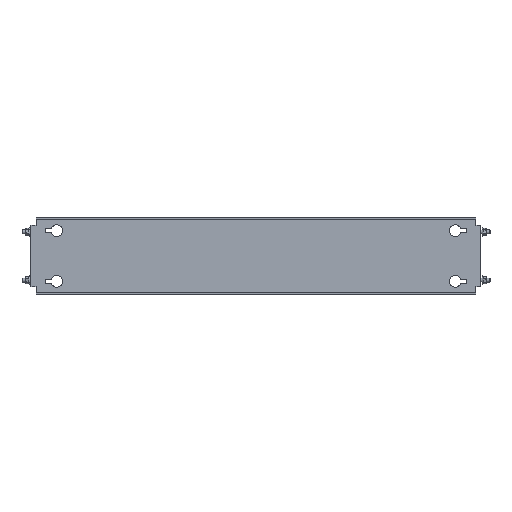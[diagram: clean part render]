
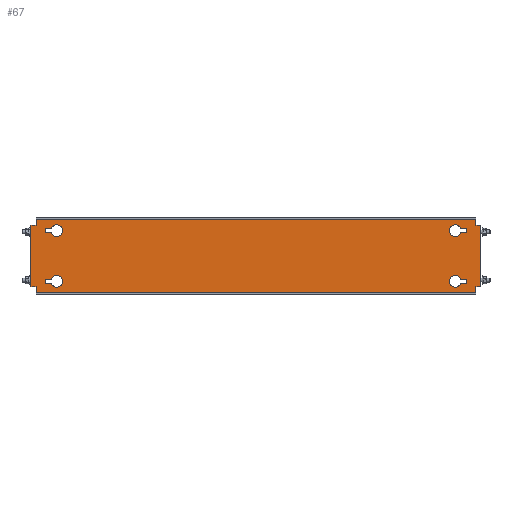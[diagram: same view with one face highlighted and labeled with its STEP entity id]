
A CAD part, top view. The second image highlights one B-rep face of the part: STEP entity #67.
In plain terms, the highlighted planar face has unit normal (0, 0, 1).
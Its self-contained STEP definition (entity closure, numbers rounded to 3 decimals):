
#67 = ADVANCED_FACE('',(#68,#103,#138,#300,#335),#370,.T.);
#68 = FACE_BOUND('',#69,.T.);
#69 = EDGE_LOOP('',(#70,#80,#88,#96));
#70 = ORIENTED_EDGE('',*,*,#71,.T.);
#71 = EDGE_CURVE('',#72,#74,#76,.T.);
#72 = VERTEX_POINT('',#73);
#73 = CARTESIAN_POINT('',(318.393,42.75,2.));
#74 = VERTEX_POINT('',#75);
#75 = CARTESIAN_POINT('',(328.,42.75,2.));
#76 = LINE('',#77,#78);
#77 = CARTESIAN_POINT('',(327.,42.75,2.));
#78 = VECTOR('',#79,1.);
#79 = DIRECTION('',(1.,0.,0.));
#80 = ORIENTED_EDGE('',*,*,#81,.T.);
#81 = EDGE_CURVE('',#74,#82,#84,.T.);
#82 = VERTEX_POINT('',#83);
#83 = CARTESIAN_POINT('',(328.,36.25,2.));
#84 = LINE('',#85,#86);
#85 = CARTESIAN_POINT('',(328.,42.75,2.));
#86 = VECTOR('',#87,1.);
#87 = DIRECTION('',(0.,-1.,0.));
#88 = ORIENTED_EDGE('',*,*,#89,.T.);
#89 = EDGE_CURVE('',#82,#90,#92,.T.);
#90 = VERTEX_POINT('',#91);
#91 = CARTESIAN_POINT('',(318.393,36.25,2.));
#92 = LINE('',#93,#94);
#93 = CARTESIAN_POINT('',(327.,36.25,2.));
#94 = VECTOR('',#95,1.);
#95 = DIRECTION('',(-1.,0.,0.));
#96 = ORIENTED_EDGE('',*,*,#97,.T.);
#97 = EDGE_CURVE('',#90,#72,#98,.T.);
#98 = CIRCLE('',#99,9.);
#99 = AXIS2_PLACEMENT_3D('',#100,#101,#102);
#100 = CARTESIAN_POINT('',(310.,39.5,2.));
#101 = DIRECTION('',(0.,0.,-1.));
#102 = DIRECTION('',(1.,0.,0.));
#103 = FACE_BOUND('',#104,.T.);
#104 = EDGE_LOOP('',(#105,#115,#123,#131));
#105 = ORIENTED_EDGE('',*,*,#106,.T.);
#106 = EDGE_CURVE('',#107,#109,#111,.T.);
#107 = VERTEX_POINT('',#108);
#108 = CARTESIAN_POINT('',(-318.393,-42.75,2.));
#109 = VERTEX_POINT('',#110);
#110 = CARTESIAN_POINT('',(-328.,-42.75,2.));
#111 = LINE('',#112,#113);
#112 = CARTESIAN_POINT('',(-327.,-42.75,2.));
#113 = VECTOR('',#114,1.);
#114 = DIRECTION('',(-1.,0.,0.));
#115 = ORIENTED_EDGE('',*,*,#116,.T.);
#116 = EDGE_CURVE('',#109,#117,#119,.T.);
#117 = VERTEX_POINT('',#118);
#118 = CARTESIAN_POINT('',(-328.,-36.25,2.));
#119 = LINE('',#120,#121);
#120 = CARTESIAN_POINT('',(-328.,-42.75,2.));
#121 = VECTOR('',#122,1.);
#122 = DIRECTION('',(0.,1.,0.));
#123 = ORIENTED_EDGE('',*,*,#124,.T.);
#124 = EDGE_CURVE('',#117,#125,#127,.T.);
#125 = VERTEX_POINT('',#126);
#126 = CARTESIAN_POINT('',(-318.393,-36.25,2.));
#127 = LINE('',#128,#129);
#128 = CARTESIAN_POINT('',(-327.,-36.25,2.));
#129 = VECTOR('',#130,1.);
#130 = DIRECTION('',(1.,-0.,-0.));
#131 = ORIENTED_EDGE('',*,*,#132,.T.);
#132 = EDGE_CURVE('',#125,#107,#133,.T.);
#133 = CIRCLE('',#134,9.);
#134 = AXIS2_PLACEMENT_3D('',#135,#136,#137);
#135 = CARTESIAN_POINT('',(-310.,-39.5,2.));
#136 = DIRECTION('',(0.,0.,-1.));
#137 = DIRECTION('',(-1.,0.,0.));
#138 = FACE_BOUND('',#139,.T.);
#139 = EDGE_LOOP('',(#140,#150,#158,#166,#174,#182,#190,#198,#206,#214,
    #222,#230,#238,#246,#254,#262,#270,#278,#286,#294));
#140 = ORIENTED_EDGE('',*,*,#141,.F.);
#141 = EDGE_CURVE('',#142,#144,#146,.T.);
#142 = VERTEX_POINT('',#143);
#143 = CARTESIAN_POINT('',(-347.4,47.5,2.));
#144 = VERTEX_POINT('',#145);
#145 = CARTESIAN_POINT('',(-342.,47.5,2.));
#146 = LINE('',#147,#148);
#147 = CARTESIAN_POINT('',(-348.,47.5,2.));
#148 = VECTOR('',#149,1.);
#149 = DIRECTION('',(1.,0.,-0.));
#150 = ORIENTED_EDGE('',*,*,#151,.T.);
#151 = EDGE_CURVE('',#142,#152,#154,.T.);
#152 = VERTEX_POINT('',#153);
#153 = CARTESIAN_POINT('',(-350.,47.5,2.));
#154 = LINE('',#155,#156);
#155 = CARTESIAN_POINT('',(-347.4,47.5,2.));
#156 = VECTOR('',#157,1.);
#157 = DIRECTION('',(-1.,0.,0.));
#158 = ORIENTED_EDGE('',*,*,#159,.F.);
#159 = EDGE_CURVE('',#160,#152,#162,.T.);
#160 = VERTEX_POINT('',#161);
#161 = CARTESIAN_POINT('',(-350.,-47.5,2.));
#162 = LINE('',#163,#164);
#163 = CARTESIAN_POINT('',(-350.,-57.5,2.));
#164 = VECTOR('',#165,1.);
#165 = DIRECTION('',(-0.,1.,-0.));
#166 = ORIENTED_EDGE('',*,*,#167,.F.);
#167 = EDGE_CURVE('',#168,#160,#170,.T.);
#168 = VERTEX_POINT('',#169);
#169 = CARTESIAN_POINT('',(-347.4,-47.5,2.));
#170 = LINE('',#171,#172);
#171 = CARTESIAN_POINT('',(-342.,-47.5,2.));
#172 = VECTOR('',#173,1.);
#173 = DIRECTION('',(-1.,-0.,-0.));
#174 = ORIENTED_EDGE('',*,*,#175,.T.);
#175 = EDGE_CURVE('',#168,#176,#178,.T.);
#176 = VERTEX_POINT('',#177);
#177 = CARTESIAN_POINT('',(-342.,-47.5,2.));
#178 = LINE('',#179,#180);
#179 = CARTESIAN_POINT('',(-348.,-47.5,2.));
#180 = VECTOR('',#181,1.);
#181 = DIRECTION('',(1.,0.,-0.));
#182 = ORIENTED_EDGE('',*,*,#183,.T.);
#183 = EDGE_CURVE('',#176,#184,#186,.T.);
#184 = VERTEX_POINT('',#185);
#185 = CARTESIAN_POINT('',(-342.,-56.9,2.));
#186 = LINE('',#187,#188);
#187 = CARTESIAN_POINT('',(-342.,57.5,2.));
#188 = VECTOR('',#189,1.);
#189 = DIRECTION('',(0.,-1.,0.));
#190 = ORIENTED_EDGE('',*,*,#191,.T.);
#191 = EDGE_CURVE('',#184,#192,#194,.T.);
#192 = VERTEX_POINT('',#193);
#193 = CARTESIAN_POINT('',(-342.,-57.5,2.));
#194 = LINE('',#195,#196);
#195 = CARTESIAN_POINT('',(-342.,-56.9,2.));
#196 = VECTOR('',#197,1.);
#197 = DIRECTION('',(-0.,-1.,-0.));
#198 = ORIENTED_EDGE('',*,*,#199,.T.);
#199 = EDGE_CURVE('',#192,#200,#202,.T.);
#200 = VERTEX_POINT('',#201);
#201 = CARTESIAN_POINT('',(342.,-57.5,2.));
#202 = LINE('',#203,#204);
#203 = CARTESIAN_POINT('',(342.,-57.5,2.));
#204 = VECTOR('',#205,1.);
#205 = DIRECTION('',(1.,0.,0.));
#206 = ORIENTED_EDGE('',*,*,#207,.F.);
#207 = EDGE_CURVE('',#208,#200,#210,.T.);
#208 = VERTEX_POINT('',#209);
#209 = CARTESIAN_POINT('',(342.,-56.9,2.));
#210 = LINE('',#211,#212);
#211 = CARTESIAN_POINT('',(342.,-57.5,2.));
#212 = VECTOR('',#213,1.);
#213 = DIRECTION('',(0.,-1.,0.));
#214 = ORIENTED_EDGE('',*,*,#215,.T.);
#215 = EDGE_CURVE('',#208,#216,#218,.T.);
#216 = VERTEX_POINT('',#217);
#217 = CARTESIAN_POINT('',(342.,-47.5,2.));
#218 = LINE('',#219,#220);
#219 = CARTESIAN_POINT('',(342.,57.5,2.));
#220 = VECTOR('',#221,1.);
#221 = DIRECTION('',(-0.,1.,-0.));
#222 = ORIENTED_EDGE('',*,*,#223,.F.);
#223 = EDGE_CURVE('',#224,#216,#226,.T.);
#224 = VERTEX_POINT('',#225);
#225 = CARTESIAN_POINT('',(347.4,-47.5,2.));
#226 = LINE('',#227,#228);
#227 = CARTESIAN_POINT('',(348.,-47.5,2.));
#228 = VECTOR('',#229,1.);
#229 = DIRECTION('',(-1.,0.,-0.));
#230 = ORIENTED_EDGE('',*,*,#231,.T.);
#231 = EDGE_CURVE('',#224,#232,#234,.T.);
#232 = VERTEX_POINT('',#233);
#233 = CARTESIAN_POINT('',(350.,-47.5,2.));
#234 = LINE('',#235,#236);
#235 = CARTESIAN_POINT('',(347.4,-47.5,2.));
#236 = VECTOR('',#237,1.);
#237 = DIRECTION('',(1.,-0.,0.));
#238 = ORIENTED_EDGE('',*,*,#239,.F.);
#239 = EDGE_CURVE('',#240,#232,#242,.T.);
#240 = VERTEX_POINT('',#241);
#241 = CARTESIAN_POINT('',(350.,47.5,2.));
#242 = LINE('',#243,#244);
#243 = CARTESIAN_POINT('',(350.,-57.5,2.));
#244 = VECTOR('',#245,1.);
#245 = DIRECTION('',(-0.,-1.,0.));
#246 = ORIENTED_EDGE('',*,*,#247,.F.);
#247 = EDGE_CURVE('',#248,#240,#250,.T.);
#248 = VERTEX_POINT('',#249);
#249 = CARTESIAN_POINT('',(347.4,47.5,2.));
#250 = LINE('',#251,#252);
#251 = CARTESIAN_POINT('',(-342.,47.5,2.));
#252 = VECTOR('',#253,1.);
#253 = DIRECTION('',(1.,-0.,0.));
#254 = ORIENTED_EDGE('',*,*,#255,.T.);
#255 = EDGE_CURVE('',#248,#256,#258,.T.);
#256 = VERTEX_POINT('',#257);
#257 = CARTESIAN_POINT('',(342.,47.5,2.));
#258 = LINE('',#259,#260);
#259 = CARTESIAN_POINT('',(348.,47.5,2.));
#260 = VECTOR('',#261,1.);
#261 = DIRECTION('',(-1.,0.,-0.));
#262 = ORIENTED_EDGE('',*,*,#263,.T.);
#263 = EDGE_CURVE('',#256,#264,#266,.T.);
#264 = VERTEX_POINT('',#265);
#265 = CARTESIAN_POINT('',(342.,56.9,2.));
#266 = LINE('',#267,#268);
#267 = CARTESIAN_POINT('',(342.,57.5,2.));
#268 = VECTOR('',#269,1.);
#269 = DIRECTION('',(-0.,1.,-0.));
#270 = ORIENTED_EDGE('',*,*,#271,.T.);
#271 = EDGE_CURVE('',#264,#272,#274,.T.);
#272 = VERTEX_POINT('',#273);
#273 = CARTESIAN_POINT('',(342.,57.5,2.));
#274 = LINE('',#275,#276);
#275 = CARTESIAN_POINT('',(342.,56.9,2.));
#276 = VECTOR('',#277,1.);
#277 = DIRECTION('',(-0.,1.,-0.));
#278 = ORIENTED_EDGE('',*,*,#279,.T.);
#279 = EDGE_CURVE('',#272,#280,#282,.T.);
#280 = VERTEX_POINT('',#281);
#281 = CARTESIAN_POINT('',(-342.,57.5,2.));
#282 = LINE('',#283,#284);
#283 = CARTESIAN_POINT('',(-342.,57.5,2.));
#284 = VECTOR('',#285,1.);
#285 = DIRECTION('',(-1.,0.,0.));
#286 = ORIENTED_EDGE('',*,*,#287,.F.);
#287 = EDGE_CURVE('',#288,#280,#290,.T.);
#288 = VERTEX_POINT('',#289);
#289 = CARTESIAN_POINT('',(-342.,56.9,2.));
#290 = LINE('',#291,#292);
#291 = CARTESIAN_POINT('',(-342.,-57.5,2.));
#292 = VECTOR('',#293,1.);
#293 = DIRECTION('',(0.,1.,-0.));
#294 = ORIENTED_EDGE('',*,*,#295,.T.);
#295 = EDGE_CURVE('',#288,#144,#296,.T.);
#296 = LINE('',#297,#298);
#297 = CARTESIAN_POINT('',(-342.,57.5,2.));
#298 = VECTOR('',#299,1.);
#299 = DIRECTION('',(0.,-1.,0.));
#300 = FACE_BOUND('',#301,.T.);
#301 = EDGE_LOOP('',(#302,#312,#320,#328));
#302 = ORIENTED_EDGE('',*,*,#303,.F.);
#303 = EDGE_CURVE('',#304,#306,#308,.T.);
#304 = VERTEX_POINT('',#305);
#305 = CARTESIAN_POINT('',(328.,-36.25,2.));
#306 = VERTEX_POINT('',#307);
#307 = CARTESIAN_POINT('',(318.393,-36.25,2.));
#308 = LINE('',#309,#310);
#309 = CARTESIAN_POINT('',(318.393,-36.25,2.));
#310 = VECTOR('',#311,1.);
#311 = DIRECTION('',(-1.,0.,0.));
#312 = ORIENTED_EDGE('',*,*,#313,.F.);
#313 = EDGE_CURVE('',#314,#304,#316,.T.);
#314 = VERTEX_POINT('',#315);
#315 = CARTESIAN_POINT('',(328.,-42.75,2.));
#316 = LINE('',#317,#318);
#317 = CARTESIAN_POINT('',(328.,-36.25,2.));
#318 = VECTOR('',#319,1.);
#319 = DIRECTION('',(0.,1.,0.));
#320 = ORIENTED_EDGE('',*,*,#321,.F.);
#321 = EDGE_CURVE('',#322,#314,#324,.T.);
#322 = VERTEX_POINT('',#323);
#323 = CARTESIAN_POINT('',(318.393,-42.75,2.));
#324 = LINE('',#325,#326);
#325 = CARTESIAN_POINT('',(327.,-42.75,2.));
#326 = VECTOR('',#327,1.);
#327 = DIRECTION('',(1.,0.,0.));
#328 = ORIENTED_EDGE('',*,*,#329,.F.);
#329 = EDGE_CURVE('',#306,#322,#330,.T.);
#330 = CIRCLE('',#331,9.);
#331 = AXIS2_PLACEMENT_3D('',#332,#333,#334);
#332 = CARTESIAN_POINT('',(310.,-39.5,2.));
#333 = DIRECTION('',(0.,-0.,1.));
#334 = DIRECTION('',(1.,0.,0.));
#335 = FACE_BOUND('',#336,.T.);
#336 = EDGE_LOOP('',(#337,#347,#355,#363));
#337 = ORIENTED_EDGE('',*,*,#338,.F.);
#338 = EDGE_CURVE('',#339,#341,#343,.T.);
#339 = VERTEX_POINT('',#340);
#340 = CARTESIAN_POINT('',(-328.,36.25,2.));
#341 = VERTEX_POINT('',#342);
#342 = CARTESIAN_POINT('',(-318.393,36.25,2.));
#343 = LINE('',#344,#345);
#344 = CARTESIAN_POINT('',(-318.393,36.25,2.));
#345 = VECTOR('',#346,1.);
#346 = DIRECTION('',(1.,0.,0.));
#347 = ORIENTED_EDGE('',*,*,#348,.F.);
#348 = EDGE_CURVE('',#349,#339,#351,.T.);
#349 = VERTEX_POINT('',#350);
#350 = CARTESIAN_POINT('',(-328.,42.75,2.));
#351 = LINE('',#352,#353);
#352 = CARTESIAN_POINT('',(-328.,36.25,2.));
#353 = VECTOR('',#354,1.);
#354 = DIRECTION('',(0.,-1.,0.));
#355 = ORIENTED_EDGE('',*,*,#356,.F.);
#356 = EDGE_CURVE('',#357,#349,#359,.T.);
#357 = VERTEX_POINT('',#358);
#358 = CARTESIAN_POINT('',(-318.393,42.75,2.));
#359 = LINE('',#360,#361);
#360 = CARTESIAN_POINT('',(-327.,42.75,2.));
#361 = VECTOR('',#362,1.);
#362 = DIRECTION('',(-1.,0.,0.));
#363 = ORIENTED_EDGE('',*,*,#364,.F.);
#364 = EDGE_CURVE('',#341,#357,#365,.T.);
#365 = CIRCLE('',#366,9.);
#366 = AXIS2_PLACEMENT_3D('',#367,#368,#369);
#367 = CARTESIAN_POINT('',(-310.,39.5,2.));
#368 = DIRECTION('',(0.,-0.,1.));
#369 = DIRECTION('',(-1.,0.,0.));
#370 = PLANE('',#371);
#371 = AXIS2_PLACEMENT_3D('',#372,#373,#374);
#372 = CARTESIAN_POINT('',(-342.,-57.5,2.));
#373 = DIRECTION('',(-0.,0.,1.));
#374 = DIRECTION('',(1.,0.,0.));
